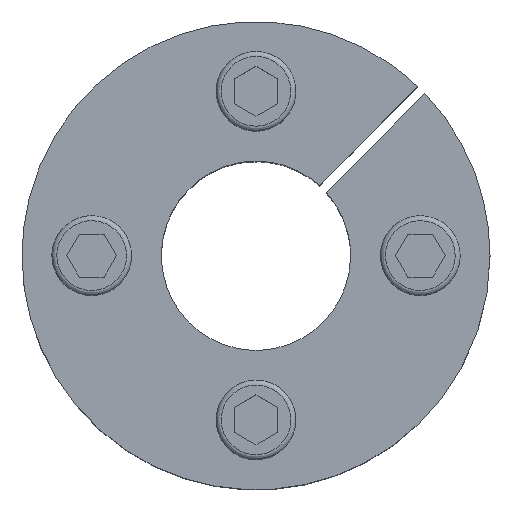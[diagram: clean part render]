
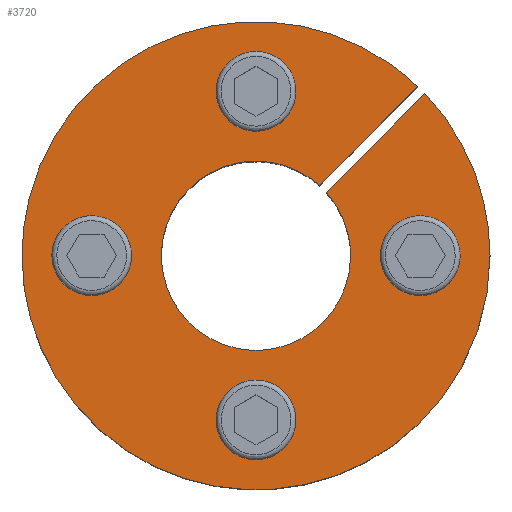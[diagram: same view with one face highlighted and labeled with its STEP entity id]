
A CAD part, top view. The second image highlights one B-rep face of the part: STEP entity #3720.
In plain terms, the highlighted free-form (B-spline) face has degree [1, 1] with [2, 2] control points.
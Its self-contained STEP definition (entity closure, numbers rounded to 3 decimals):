
#2710 = CARTESIAN_POINT ('', (7.062, 6.355, 100.175));
#2720 = VERTEX_POINT ('', #2710);
#2730 = CARTESIAN_POINT ('', (9.5, 0., 100.175));
#2740 = VERTEX_POINT ('', #2730);
#2750 = CARTESIAN_POINT ('', (7.062, 6.355, 100.175));
#2760 = CARTESIAN_POINT ('', (9.5, 3.645, 100.175));
#2770 = CARTESIAN_POINT ('', (9.5, 0., 100.175));
#2780 = (
   BOUNDED_CURVE ()
   B_SPLINE_CURVE (2, (#2750, #2760, #2770), .UNSPECIFIED., .F., .U.)
   B_SPLINE_CURVE_WITH_KNOTS ((3, 3), (0.883, 1.), .UNSPECIFIED.)
   CURVE ()
   GEOMETRIC_REPRESENTATION_ITEM ()
   RATIONAL_B_SPLINE_CURVE ((0.854, 0.863, 1.))
   REPRESENTATION_ITEM ('')
);
#2790 = EDGE_CURVE ('', #2720, #2740, #2780, .T.);
#3160 = CARTESIAN_POINT ('', (16.967, 16.26, 100.175));
#3170 = VERTEX_POINT ('', #3160);
#3180 = CARTESIAN_POINT ('', (23.5, 0., 100.175));
#3190 = VERTEX_POINT ('', #3180);
#3200 = CARTESIAN_POINT ('', (16.967, 16.26, 100.175));
#3210 = CARTESIAN_POINT ('', (23.5, 9.442, 100.175));
#3220 = CARTESIAN_POINT ('', (23.5, 0., 100.175));
#3230 = (
   BOUNDED_CURVE ()
   B_SPLINE_CURVE (2, (#3200, #3210, #3220), .UNSPECIFIED., .F., .U.)
   B_SPLINE_CURVE_WITH_KNOTS ((3, 3), (0.878, 1.), .UNSPECIFIED.)
   CURVE ()
   GEOMETRIC_REPRESENTATION_ITEM ()
   RATIONAL_B_SPLINE_CURVE ((0.854, 0.857, 1.))
   REPRESENTATION_ITEM ('')
);
#3240 = EDGE_CURVE ('', #3170, #3190, #3230, .T.);
#3250 = ORIENTED_EDGE ('', *, *, #3240, .F.);
#3260 = CARTESIAN_POINT ('', (16.967, 16.26, 100.175));
#3270 = CARTESIAN_POINT ('', (7.062, 6.355, 100.175));
#3280 = B_SPLINE_CURVE_WITH_KNOTS ('', 1, (#3260, #3270), .UNSPECIFIED., .F., .U., (2, 2), (0.211, 0.948), .UNSPECIFIED.);
#3290 = EDGE_CURVE ('', #3170, #2720, #3280, .T.);
#3300 = ORIENTED_EDGE ('', *, *, #3290, .T.);
#3310 = ORIENTED_EDGE ('', *, *, #2790, .T.);
#3320 = CARTESIAN_POINT ('', (6.355, 7.062, 100.175));
#3330 = VERTEX_POINT ('', #3320);
#3340 = CARTESIAN_POINT ('', (9.5, 0., 100.175));
#3350 = CARTESIAN_POINT ('', (9.5, -9.5, 100.175));
#3360 = CARTESIAN_POINT ('', (0., -9.5, 100.175));
#3370 = CARTESIAN_POINT ('', (-9.5, -9.5, 100.175));
#3380 = CARTESIAN_POINT ('', (-9.5, 0., 100.175));
#3390 = CARTESIAN_POINT ('', (-9.5, 9.5, 100.175));
#3400 = CARTESIAN_POINT ('', (0., 9.5, 100.175));
#3410 = CARTESIAN_POINT ('', (3.645, 9.5, 100.175));
#3420 = CARTESIAN_POINT ('', (6.355, 7.062, 100.175));
#3430 = (
   BOUNDED_CURVE ()
   B_SPLINE_CURVE (2, (#3340, #3350, #3360, #3370, #3380, #3390, #3400, #3410, #3420), .UNSPECIFIED., .F., .U.)
   B_SPLINE_CURVE_WITH_KNOTS ((3, 2, 2, 2, 3), (0., 0.25, 0.5, 0.75, 0.867), .UNSPECIFIED.)
   CURVE ()
   GEOMETRIC_REPRESENTATION_ITEM ()
   RATIONAL_B_SPLINE_CURVE ((1., 0.707, 1., 0.707, 1., 0.707, 1., 0.863, 0.854))
   REPRESENTATION_ITEM ('')
);
#3440 = EDGE_CURVE ('', #2740, #3330, #3430, .T.);
#3450 = ORIENTED_EDGE ('', *, *, #3440, .T.);
#3460 = CARTESIAN_POINT ('', (16.26, 16.967, 100.175));
#3470 = VERTEX_POINT ('', #3460);
#3480 = CARTESIAN_POINT ('', (16.26, 16.967, 100.175));
#3490 = CARTESIAN_POINT ('', (6.355, 7.062, 100.175));
#3500 = B_SPLINE_CURVE_WITH_KNOTS ('', 1, (#3480, #3490), .UNSPECIFIED., .F., .U., (2, 2), (0.211, 0.948), .UNSPECIFIED.);
#3510 = EDGE_CURVE ('', #3470, #3330, #3500, .T.);
#3520 = ORIENTED_EDGE ('', *, *, #3510, .F.);
#3530 = CARTESIAN_POINT ('', (23.5, 0., 100.175));
#3540 = CARTESIAN_POINT ('', (23.5, -23.5, 100.175));
#3550 = CARTESIAN_POINT ('', (0., -23.5, 100.175));
#3560 = CARTESIAN_POINT ('', (-23.5, -23.5, 100.175));
#3570 = CARTESIAN_POINT ('', (-23.5, 0., 100.175));
#3580 = CARTESIAN_POINT ('', (-23.5, 23.5, 100.175));
#3590 = CARTESIAN_POINT ('', (0., 23.5, 100.175));
#3600 = CARTESIAN_POINT ('', (9.442, 23.5, 100.175));
#3610 = CARTESIAN_POINT ('', (16.26, 16.967, 100.175));
#3620 = (
   BOUNDED_CURVE ()
   B_SPLINE_CURVE (2, (#3530, #3540, #3550, #3560, #3570, #3580, #3590, #3600, #3610), .UNSPECIFIED., .F., .U.)
   B_SPLINE_CURVE_WITH_KNOTS ((3, 2, 2, 2, 3), (0., 0.25, 0.5, 0.75, 0.872), .UNSPECIFIED.)
   CURVE ()
   GEOMETRIC_REPRESENTATION_ITEM ()
   RATIONAL_B_SPLINE_CURVE ((1., 0.707, 1., 0.707, 1., 0.707, 1., 0.857, 0.854))
   REPRESENTATION_ITEM ('')
);
#3630 = EDGE_CURVE ('', #3190, #3470, #3620, .T.);
#3640 = ORIENTED_EDGE ('', *, *, #3630, .F.);
#3650 = EDGE_LOOP ('', (#3250, #3300, #3310, #3450, #3520, #3640));
#3660 = FACE_OUTER_BOUND ('', #3650, .T.);
#3670 = CARTESIAN_POINT ('', (-25.85, 25.85, 100.175));
#3680 = CARTESIAN_POINT ('', (25.85, 25.85, 100.175));
#3690 = CARTESIAN_POINT ('', (-25.85, -25.85, 100.175));
#3700 = CARTESIAN_POINT ('', (25.85, -25.85, 100.175));
#3710 = B_SPLINE_SURFACE_WITH_KNOTS ('', 1, 1, ((#3670, #3680), (#3690, #3700)), .UNSPECIFIED., .F., .F., .U., (2, 2), (2, 2), (0., 1.), (0., 1.), .UNSPECIFIED.);
#3720 = ADVANCED_FACE ('', (#3660), #3710, .T.);
